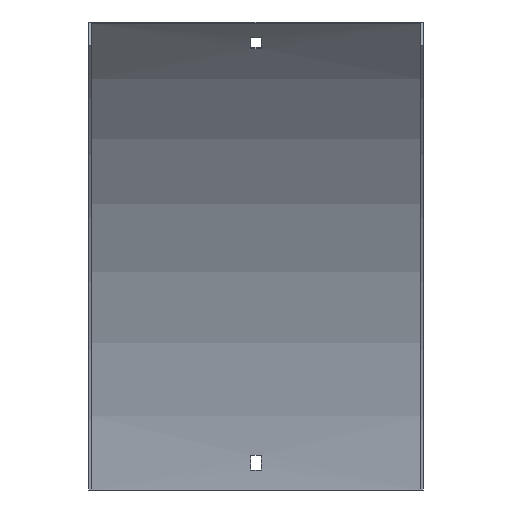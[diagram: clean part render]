
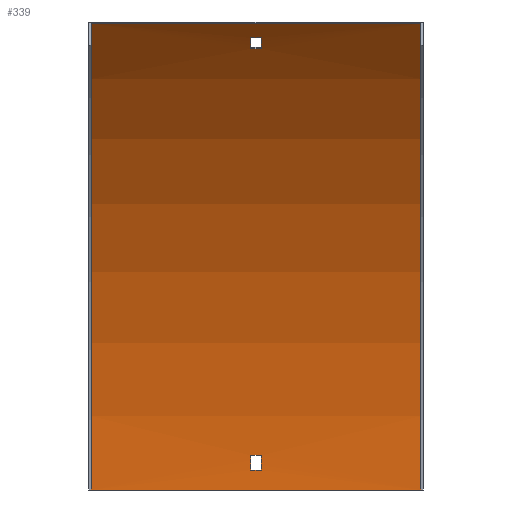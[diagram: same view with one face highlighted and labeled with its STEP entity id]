
A CAD part, front view. The second image highlights one B-rep face of the part: STEP entity #339.
In plain terms, the highlighted cylindrical face has radius 400 mm (diameter 800 mm), a partial arc.
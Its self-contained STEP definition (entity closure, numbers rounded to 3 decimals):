
#15 = CIRCLE ( 'NONE', #452, 400. ) ;
#17 = CARTESIAN_POINT ( 'NONE',  ( 3.25, -401.5, 0. ) ) ;
#27 = DIRECTION ( 'NONE',  ( 0., 0., -1. ) ) ;
#31 = ORIENTED_EDGE ( 'NONE', *, *, #551, .T. ) ;
#34 = ORIENTED_EDGE ( 'NONE', *, *, #98, .T. ) ;
#46 = VERTEX_POINT ( 'NONE', #97 ) ;
#47 = FACE_BOUND ( 'NONE', #205, .T. ) ;
#49 = CARTESIAN_POINT ( 'NONE',  ( -3.25, -110.299, 274.23 ) ) ;
#56 = LINE ( 'NONE', #99, #171 ) ;
#66 = CARTESIAN_POINT ( 'NONE',  ( 100., -118.657, 282.843 ) ) ;
#69 = CIRCLE ( 'NONE', #360, 400. ) ;
#75 = AXIS2_PLACEMENT_3D ( 'NONE', #405, #474, #146 ) ;
#77 = EDGE_CURVE ( 'NONE', #539, #432, #568, .T. ) ;
#82 = VERTEX_POINT ( 'NONE', #525 ) ;
#86 = FACE_BOUND ( 'NONE', #342, .T. ) ;
#87 = VECTOR ( 'NONE', #388, 1000. ) ;
#90 = LINE ( 'NONE', #383, #163 ) ;
#91 = CARTESIAN_POINT ( 'NONE',  ( 100., -401.5, 0. ) ) ;
#93 = CARTESIAN_POINT ( 'NONE',  ( -3.25, -2.052, 21. ) ) ;
#96 = ORIENTED_EDGE ( 'NONE', *, *, #222, .T. ) ;
#97 = CARTESIAN_POINT ( 'NONE',  ( 100., -1.5, 0. ) ) ;
#98 = EDGE_CURVE ( 'NONE', #571, #539, #90, .T. ) ;
#99 = CARTESIAN_POINT ( 'NONE',  ( 101.5, -110.299, 274.23 ) ) ;
#105 = DIRECTION ( 'NONE',  ( -1., 0., 0. ) ) ;
#117 = CARTESIAN_POINT ( 'NONE',  ( -3.25, -1.68, 12. ) ) ;
#120 = AXIS2_PLACEMENT_3D ( 'NONE', #356, #415, #27 ) ;
#126 = EDGE_CURVE ( 'NONE', #299, #241, #15, .T. ) ;
#138 = DIRECTION ( 'NONE',  ( 0., 0., 1. ) ) ;
#143 = LINE ( 'NONE', #245, #461 ) ;
#146 = DIRECTION ( 'NONE',  ( 0., 0., 1. ) ) ;
#149 = DIRECTION ( 'NONE',  ( -1., 0., 0. ) ) ;
#158 = CARTESIAN_POINT ( 'NONE',  ( 100., -118.657, 282.843 ) ) ;
#160 = VERTEX_POINT ( 'NONE', #93 ) ;
#163 = VECTOR ( 'NONE', #194, 1000. ) ;
#166 = DIRECTION ( 'NONE',  ( -1., 0., 0. ) ) ;
#171 = VECTOR ( 'NONE', #291, 1000. ) ;
#187 = CYLINDRICAL_SURFACE ( 'NONE', #75, 400. ) ;
#189 = LINE ( 'NONE', #570, #87 ) ;
#194 = DIRECTION ( 'NONE',  ( -1., 0., 0. ) ) ;
#196 = EDGE_CURVE ( 'NONE', #46, #299, #481, .T. ) ;
#200 = CARTESIAN_POINT ( 'NONE',  ( 3.25, -1.68, 12. ) ) ;
#202 = ORIENTED_EDGE ( 'NONE', *, *, #196, .F. ) ;
#205 = EDGE_LOOP ( 'NONE', ( #34, #276, #385, #96 ) ) ;
#208 = FACE_OUTER_BOUND ( 'NONE', #479, .T. ) ;
#215 = VERTEX_POINT ( 'NONE', #66 ) ;
#222 = EDGE_CURVE ( 'NONE', #523, #571, #506, .T. ) ;
#234 = EDGE_CURVE ( 'NONE', #535, #82, #392, .T. ) ;
#237 = AXIS2_PLACEMENT_3D ( 'NONE', #341, #149, #478 ) ;
#239 = DIRECTION ( 'NONE',  ( 1., 0., 0. ) ) ;
#240 = DIRECTION ( 'NONE',  ( 1., 0., 0. ) ) ;
#241 = VERTEX_POINT ( 'NONE', #457 ) ;
#245 = CARTESIAN_POINT ( 'NONE',  ( 101.5, -2.052, 21. ) ) ;
#276 = ORIENTED_EDGE ( 'NONE', *, *, #77, .T. ) ;
#283 = DIRECTION ( 'NONE',  ( 1., 0., 0. ) ) ;
#288 = VERTEX_POINT ( 'NONE', #117 ) ;
#291 = DIRECTION ( 'NONE',  ( 1., 0., 0. ) ) ;
#299 = VERTEX_POINT ( 'NONE', #322 ) ;
#303 = AXIS2_PLACEMENT_3D ( 'NONE', #572, #239, #380 ) ;
#322 = CARTESIAN_POINT ( 'NONE',  ( -100., -1.5, 0. ) ) ;
#336 = CARTESIAN_POINT ( 'NONE',  ( 3.25, -110.299, 274.23 ) ) ;
#339 = ADVANCED_FACE ( 'NONE', ( #86, #208, #47 ), #187, .F. ) ;
#341 = CARTESIAN_POINT ( 'NONE',  ( -3.25, -401.5, 0. ) ) ;
#342 = EDGE_LOOP ( 'NONE', ( #451, #439, #416, #458 ) ) ;
#347 = ORIENTED_EDGE ( 'NONE', *, *, #126, .F. ) ;
#350 = EDGE_CURVE ( 'NONE', #82, #160, #143, .T. ) ;
#354 = CARTESIAN_POINT ( 'NONE',  ( 3.25, -104.198, 267.603 ) ) ;
#356 = CARTESIAN_POINT ( 'NONE',  ( 3.25, -401.5, 0. ) ) ;
#360 = AXIS2_PLACEMENT_3D ( 'NONE', #91, #240, #531 ) ;
#362 = VECTOR ( 'NONE', #536, 1000. ) ;
#371 = DIRECTION ( 'NONE',  ( 0., 0., -1. ) ) ;
#380 = DIRECTION ( 'NONE',  ( 0., 0., -1. ) ) ;
#381 = ORIENTED_EDGE ( 'NONE', *, *, #401, .T. ) ;
#383 = CARTESIAN_POINT ( 'NONE',  ( 101.5, -104.198, 267.603 ) ) ;
#385 = ORIENTED_EDGE ( 'NONE', *, *, #499, .T. ) ;
#388 = DIRECTION ( 'NONE',  ( 1., 0., 0. ) ) ;
#392 = CIRCLE ( 'NONE', #120, 400. ) ;
#401 = EDGE_CURVE ( 'NONE', #46, #215, #69, .T. ) ;
#405 = CARTESIAN_POINT ( 'NONE',  ( 101.5, -401.5, 0. ) ) ;
#410 = CIRCLE ( 'NONE', #237, 400. ) ;
#415 = DIRECTION ( 'NONE',  ( 1., 0., 0. ) ) ;
#416 = ORIENTED_EDGE ( 'NONE', *, *, #234, .F. ) ;
#424 = DIRECTION ( 'NONE',  ( -1., 0., 0. ) ) ;
#425 = EDGE_CURVE ( 'NONE', #288, #535, #189, .T. ) ;
#429 = AXIS2_PLACEMENT_3D ( 'NONE', #17, #166, #138 ) ;
#432 = VERTEX_POINT ( 'NONE', #49 ) ;
#439 = ORIENTED_EDGE ( 'NONE', *, *, #350, .F. ) ;
#445 = LINE ( 'NONE', #158, #528 ) ;
#451 = ORIENTED_EDGE ( 'NONE', *, *, #482, .F. ) ;
#452 = AXIS2_PLACEMENT_3D ( 'NONE', #600, #283, #371 ) ;
#457 = CARTESIAN_POINT ( 'NONE',  ( -100., -118.657, 282.843 ) ) ;
#458 = ORIENTED_EDGE ( 'NONE', *, *, #425, .F. ) ;
#461 = VECTOR ( 'NONE', #424, 1000. ) ;
#474 = DIRECTION ( 'NONE',  ( -1., 0., 0. ) ) ;
#478 = DIRECTION ( 'NONE',  ( 0., 0., 1. ) ) ;
#479 = EDGE_LOOP ( 'NONE', ( #347, #202, #381, #31 ) ) ;
#481 = LINE ( 'NONE', #486, #362 ) ;
#482 = EDGE_CURVE ( 'NONE', #160, #288, #410, .T. ) ;
#486 = CARTESIAN_POINT ( 'NONE',  ( 100., -1.5, 0. ) ) ;
#499 = EDGE_CURVE ( 'NONE', #432, #523, #56, .T. ) ;
#506 = CIRCLE ( 'NONE', #429, 400. ) ;
#523 = VERTEX_POINT ( 'NONE', #336 ) ;
#525 = CARTESIAN_POINT ( 'NONE',  ( 3.25, -2.052, 21. ) ) ;
#528 = VECTOR ( 'NONE', #105, 1000. ) ;
#531 = DIRECTION ( 'NONE',  ( 0., 0., -1. ) ) ;
#533 = CARTESIAN_POINT ( 'NONE',  ( -3.25, -104.198, 267.603 ) ) ;
#535 = VERTEX_POINT ( 'NONE', #200 ) ;
#536 = DIRECTION ( 'NONE',  ( -1., 0., 0. ) ) ;
#539 = VERTEX_POINT ( 'NONE', #533 ) ;
#551 = EDGE_CURVE ( 'NONE', #215, #241, #445, .T. ) ;
#568 = CIRCLE ( 'NONE', #303, 400. ) ;
#570 = CARTESIAN_POINT ( 'NONE',  ( 101.5, -1.68, 12. ) ) ;
#571 = VERTEX_POINT ( 'NONE', #354 ) ;
#572 = CARTESIAN_POINT ( 'NONE',  ( -3.25, -401.5, 0. ) ) ;
#600 = CARTESIAN_POINT ( 'NONE',  ( -100., -401.5, 0. ) ) ;
